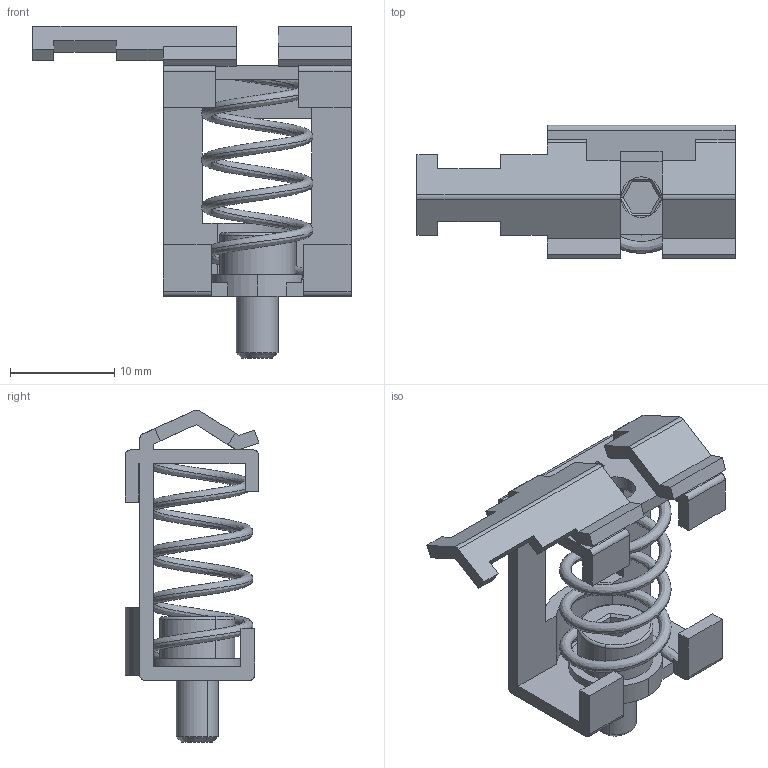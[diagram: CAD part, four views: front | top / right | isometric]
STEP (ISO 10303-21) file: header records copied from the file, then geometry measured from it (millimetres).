
FILE_DESCRIPTION (( 'STEP AP203' ), '1' );
FILE_NAME ('DOKU_SKZ 3-8_36222.STEP', '2018-07-09T11:19:51', ( 'user' ), ( '' ), 'SwSTEP 2.0', 'SolidWorks 2017', '' );
FILE_SCHEMA (( 'CONFIG_CONTROL_DESIGN' ));
Length unit declared in the file: millimetre
Products named in the file (1): DOKU_SKZ 3-8_36222
Bounding box: 30.5 x 12.81 x 31.83 mm (x, y, z)
Volume: 1647.2 mm3; surface area: 3010.7 mm2
Topology: 1 solids, 2 shells, 127 faces, 371 edges, 244 vertices
Faces by surface type: plane 96, cylinder 25, torus 2, cone 2, bspline 2
Entity records: 6898 total; most frequent: CARTESIAN_POINT 3419, ORIENTED_EDGE 742, DIRECTION 666, EDGE_CURVE 371, VECTOR 296, LINE 296, VERTEX_POINT 244, AXIS2_PLACEMENT_3D 185
